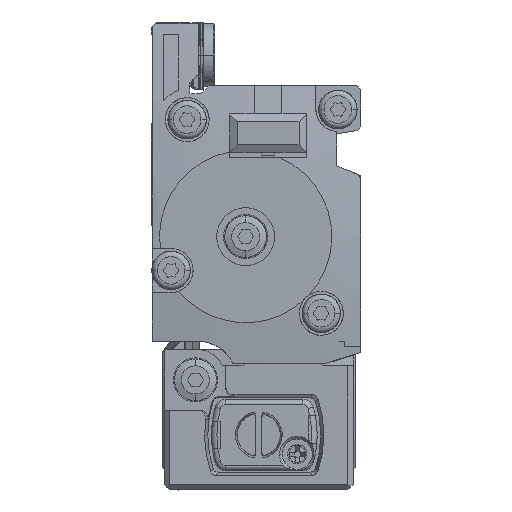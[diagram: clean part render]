
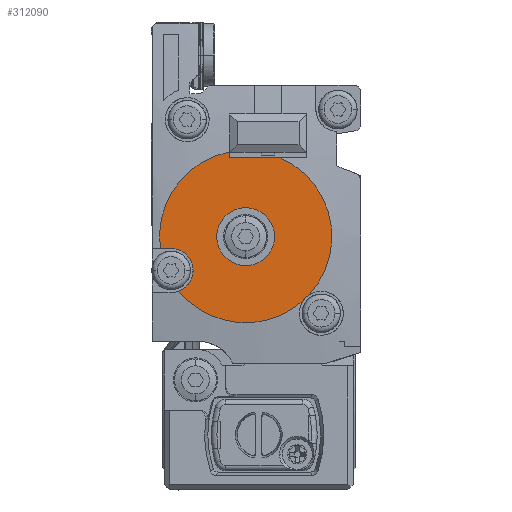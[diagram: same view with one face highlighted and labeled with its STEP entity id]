
A CAD part, left-side view. The second image highlights one B-rep face of the part: STEP entity #312090.
In plain terms, the highlighted planar face has unit normal (-1, 0, 0) as drawn and (0, 0, -1) by its records, which use the part's own axes.
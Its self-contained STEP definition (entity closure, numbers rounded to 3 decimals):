
#234030=CARTESIAN_POINT('',(-103.732,235.923,
-10.5));
#234040=VERTEX_POINT('',#234030);
#234070=CARTESIAN_POINT('',(-105.972,239.237,
-10.5));
#234080=DIRECTION('',(0.,0.,-1.));
#234090=DIRECTION('',(-1.,0.,0.));
#234100=AXIS2_PLACEMENT_3D('',#234070,#234080,#234090);
#234110=CIRCLE('',#234100,4.);
#234120=CARTESIAN_POINT('',(-102.627,237.044,
-10.5));
#234130=VERTEX_POINT('',#234120);
#234140=EDGE_CURVE('',#234130,#234040,#234110,.T.);
#251690=CARTESIAN_POINT('',(-97.3,225.495,
-10.5));
#251700=VERTEX_POINT('',#251690);
#251730=CARTESIAN_POINT('',(-92.05,225.495,
-10.5));
#251740=DIRECTION('',(0.,0.,-1.));
#251750=DIRECTION('',(-1.,0.,0.));
#251760=AXIS2_PLACEMENT_3D('',#251730,#251740,#251750);
#251770=CIRCLE('',#251760,5.25);
#251780=CARTESIAN_POINT('',(-86.8,225.495,
-10.5));
#251790=VERTEX_POINT('',#251780);
#251800=EDGE_CURVE('',#251790,#251700,#251770,.T.);
#307420=CARTESIAN_POINT('',(-94.188,211.959,
-10.5));
#307430=VERTEX_POINT('',#307420);
#307460=CARTESIAN_POINT('',(-98.188,211.959,
-10.5));
#307470=DIRECTION('',(0.,0.,-1.));
#307480=DIRECTION('',(-1.,0.,0.));
#307490=AXIS2_PLACEMENT_3D('',#307460,#307470,#307480);
#307500=CIRCLE('',#307490,4.);
#307510=CARTESIAN_POINT('',(-101.931,213.372,
-10.5));
#307520=VERTEX_POINT('',#307510);
#307530=EDGE_CURVE('',#307520,#307430,#307500,.T.);
#311580=CARTESIAN_POINT('',(-84.704,225.495,
-10.5));
#311590=DIRECTION('',(0.,0.,-1.));
#311600=DIRECTION('',(1.,0.,0.));
#311610=AXIS2_PLACEMENT_3D('',#311580,#311590,#311600);
#311620=PLANE('',#311610);
#311630=EDGE_CURVE('',#251700,#251790,#251770,.T.);
#311640=ORIENTED_EDGE('',*,*,#311630,.F.);
#311650=ORIENTED_EDGE('',*,*,#251800,.F.);
#311660=EDGE_LOOP('',(#311650,#311640));
#311670=FACE_BOUND('',#311660,.T.);
#311680=ORIENTED_EDGE('',*,*,#234140,.F.);
#311690=CARTESIAN_POINT('',(-92.051,225.509,
-10.5));
#311700=DIRECTION('',(0.,0.,-1.));
#311710=DIRECTION('',(1.,0.,0.));
#311720=AXIS2_PLACEMENT_3D('',#311690,#311700,#311710);
#311730=CIRCLE('',#311720,15.65);
#311740=EDGE_CURVE('',#307520,#234040,#311730,.T.);
#311750=ORIENTED_EDGE('',*,*,#311740,.T.);
#311760=ORIENTED_EDGE('',*,*,#307530,.F.);
#311770=CARTESIAN_POINT('',(-94.188,225.509,
-10.5));
#311780=DIRECTION('',(0.,1.,0.));
#311790=VECTOR('',#311780,1.);
#311800=LINE('',#311770,#311790);
#311810=CARTESIAN_POINT('',(-94.188,210.006,
-10.5));
#311820=VERTEX_POINT('',#311810);
#311830=EDGE_CURVE('',#311820,#307430,#311800,.T.);
#311840=ORIENTED_EDGE('',*,*,#311830,.T.);
#311850=CARTESIAN_POINT('',(-76.678,222.58,
-10.5));
#311860=VERTEX_POINT('',#311850);
#311870=EDGE_CURVE('',#311860,#311820,#311730,.T.);
#311880=ORIENTED_EDGE('',*,*,#311870,.T.);
#311890=CARTESIAN_POINT('',(-137.342,222.58,
-10.5));
#311900=DIRECTION('',(-1.,0.,0.));
#311910=VECTOR('',#311900,1.);
#311920=LINE('',#311890,#311910);
#311930=CARTESIAN_POINT('',(-77.669,222.58,
-10.5));
#311940=VERTEX_POINT('',#311930);
#311950=EDGE_CURVE('',#311860,#311940,#311920,.T.);
#311960=ORIENTED_EDGE('',*,*,#311950,.F.);
#311970=CARTESIAN_POINT('',(-77.669,225.509,
-10.5));
#311980=DIRECTION('',(0.,-1.,0.));
#311990=VECTOR('',#311980,1.);
#312000=LINE('',#311970,#311990);
#312010=CARTESIAN_POINT('',(-77.669,231.679,
-10.5));
#312020=VERTEX_POINT('',#312010);
#312030=EDGE_CURVE('',#312020,#311940,#312000,.T.);
#312040=ORIENTED_EDGE('',*,*,#312030,.T.);
#312050=EDGE_CURVE('',#234130,#312020,#311730,.T.);
#312060=ORIENTED_EDGE('',*,*,#312050,.T.);
#312070=EDGE_LOOP('',(#312060,#312040,#311960,#311880,#311840,#311760,
#311750,#311680));
#312080=FACE_OUTER_BOUND('',#312070,.T.);
#312090=ADVANCED_FACE('',(#311670,#312080),#311620,.T.);
